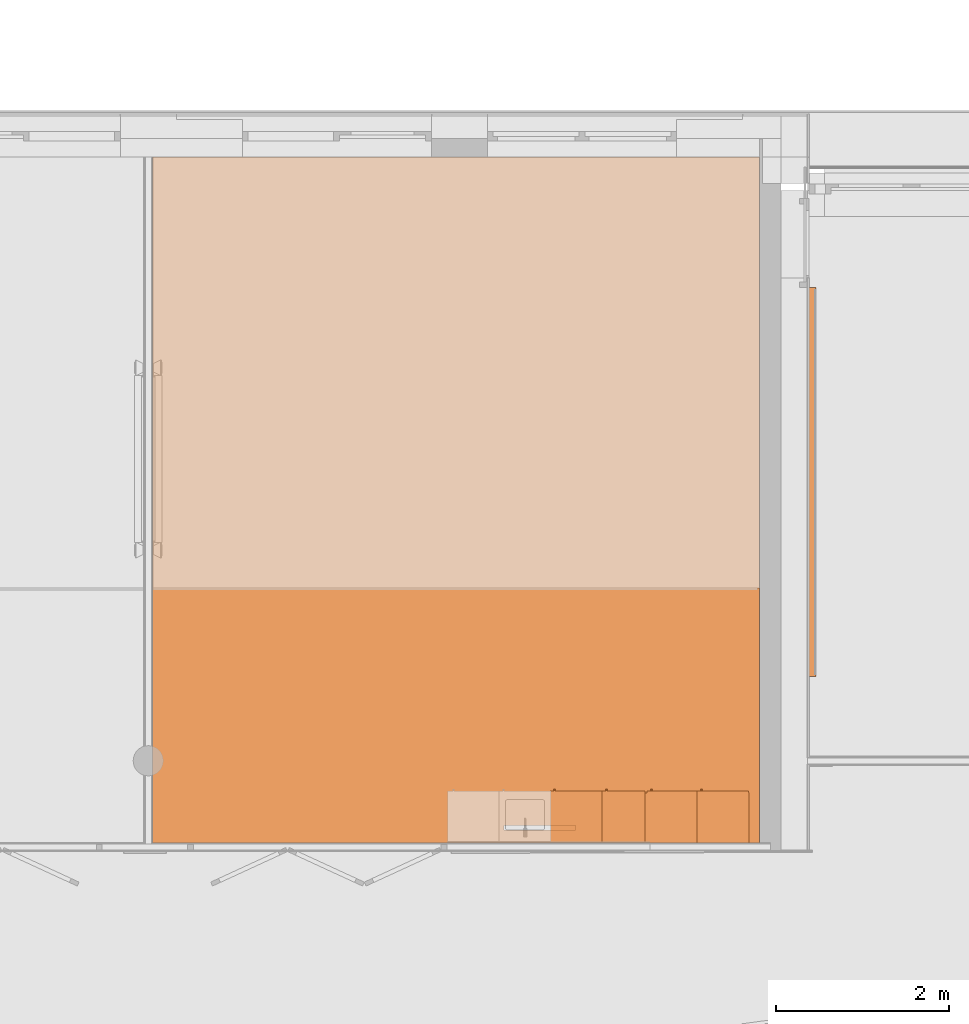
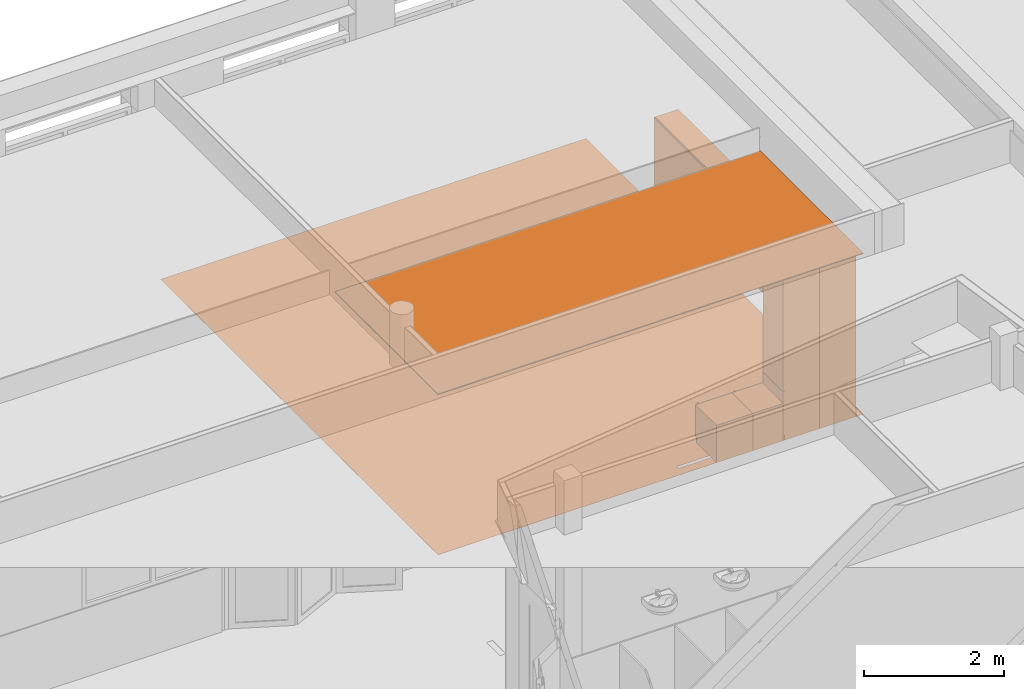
# One storey, part 134 of 167: 7 proxies.
"""IFC2X3 building model written with IfcOpenShell, lengths in millimetres."""

import ifcopenshell
import ifcopenshell.guid

model = None  # the IFC model being written
_history = None  # IfcOwnerHistory: only IFC2X3 demands one
_inside = {}  # id of a spatial element -> (the spatial element, [elements in it])
_under = {}  # id of a project, library or spatial element -> (it, [spatial elements below it])
_declared = {}  # id of a project -> (the project, [libraries it declares])
_typed = {}  # id of a type object -> (the type object, [elements of that type])
_made_of = {}  # id of a material, layer set ... -> (it, [elements and type objects made of it])


def new_model(schema):
    """Start an empty IFC model of exactly this schema.

    Asked for "IFC4X3", IfcOpenShell would pick the latest addendum, in which some entities
    have other attributes; the version numbers below select the first issue.
    IFC2X3 requires an IfcOwnerHistory on every rooted entity: one is made here for all.
    """
    global model, _history
    if schema == "IFC4X3":
        model = ifcopenshell.file(schema_version=(4, 3, 0, 0))
    else:
        model = ifcopenshell.file(schema=schema)
    _inside.clear()
    _under.clear()
    _declared.clear()
    _typed.clear()
    _made_of.clear()
    _history = None
    if model.schema == "IFC2X3":
        org = make("IfcOrganization", Name="unknown")
        user = make(
            "IfcPersonAndOrganization",
            ThePerson=make("IfcPerson", FamilyName="unknown"),
            TheOrganization=org,
        )
        app = make(
            "IfcApplication",
            ApplicationDeveloper=org,
            Version="unknown",
            ApplicationFullName="unknown",
            ApplicationIdentifier="unknown",
        )
        _history = make(
            "IfcOwnerHistory",
            OwningUser=user,
            OwningApplication=app,
            ChangeAction="ADDED",
            CreationDate=0,
        )
    return model


def make(cls, **values):
    """One entity of the class cls with the attributes given. An attribute that is None is left unset."""
    return model.create_entity(
        cls, **{name: value for name, value in values.items() if value is not None}
    )


def entity(cls, *values):
    """Any entity or typed value of the class cls, its attributes in the order of the schema. None: left unset."""
    e = model.create_entity(cls)
    for i, value in enumerate(values):
        if value is not None:
            e[i] = value
    return e


def rooted(cls, **values):
    """An entity with a GlobalId (a new one), such as an element, a storey or a relation."""
    return make(cls, GlobalId=ifcopenshell.guid.new(), OwnerHistory=_history, **values)


def si_unit(unit_type, name, prefix=None):
    """IfcSIUnit, for example si_unit("LENGTHUNIT", "METRE", prefix="MILLI")."""
    return make("IfcSIUnit", UnitType=unit_type, Prefix=prefix, Name=name)


def converted_unit(unit_type, name, factor, base, dimensions=None, offset=None):
    """IfcConversionBasedUnit, such as the inch: factor (a typed value) times the base unit."""
    return make(
        "IfcConversionBasedUnit"
        if offset is None
        else "IfcConversionBasedUnitWithOffset",
        ConversionOffset=offset,
        Dimensions=None
        if dimensions is None
        else entity("IfcDimensionalExponents", *dimensions),
        UnitType=unit_type,
        Name=name,
        ConversionFactor=make(
            "IfcMeasureWithUnit", ValueComponent=factor, UnitComponent=base
        ),
    )


def derived_unit(unit_type, elements):
    """IfcDerivedUnit: a product of units, each with its exponent."""
    return make(
        "IfcDerivedUnit",
        Elements=[
            make("IfcDerivedUnitElement", Unit=unit, Exponent=power)
            for unit, power in elements
        ],
        UnitType=unit_type,
    )


def money_unit(currency):
    """IfcMonetaryUnit."""
    return make("IfcMonetaryUnit", Currency=currency)


def assignment(units):
    """IfcUnitAssignment: the units of a project."""
    return None if units is None else make("IfcUnitAssignment", Units=units)


def point(xyz):
    """IfcCartesianPoint."""
    return None if xyz is None else make("IfcCartesianPoint", Coordinates=xyz)


def direction(xyz):
    """IfcDirection."""
    return None if xyz is None else make("IfcDirection", DirectionRatios=xyz)


def frame(location, z_axis=None, x_axis=None):
    """IfcAxis2Placement3D, a coordinate frame: its origin and axes. An axis left out is left unset."""
    return make(
        "IfcAxis2Placement3D",
        Location=point(location),
        Axis=direction(z_axis),
        RefDirection=direction(x_axis),
    )


def origin_with_axes():
    """The frame at (0, 0, 0) with the z axis (0, 0, 1) and the x axis (1, 0, 0) written out."""
    return frame((0.0, 0.0, 0.0), z_axis=(0.0, 0.0, 1.0), x_axis=(1.0, 0.0, 0.0))


def place(relative_to, where):
    """IfcLocalPlacement: puts the frame where relative to a parent placement (None: the world)."""
    return make(
        "IfcLocalPlacement", PlacementRelTo=relative_to, RelativePlacement=where
    )


def context(
    kind, dimensions, precision=None, world=None, true_north=None, identifier=None
):
    """IfcGeometricRepresentationContext, for example the 3D "Model" context."""
    return make(
        "IfcGeometricRepresentationContext",
        ContextIdentifier=identifier,
        ContextType=kind,
        CoordinateSpaceDimension=dimensions,
        Precision=precision,
        WorldCoordinateSystem=world,
        TrueNorth=true_north,
    )


def subcontext(parent, identifier, kind, view, scale=None):
    """IfcGeometricRepresentationSubContext, for example "Body" below "Model"."""
    return make(
        "IfcGeometricRepresentationSubContext",
        ContextIdentifier=identifier,
        ContextType=kind,
        ParentContext=parent,
        TargetScale=scale,
        TargetView=view,
    )


def project(units=None, contexts=None):
    """IfcProject with its units and contexts."""
    return rooted(
        "IfcProject",
        Name="project",
        RepresentationContexts=contexts,
        UnitsInContext=assignment(units),
    )


def spatial(cls, under=None, at=None, **own):
    """A site, building, storey or space (cls), placed at a placement, below another one or the project."""
    s = rooted(cls, ObjectPlacement=at, **own)
    if under is not None:
        _under.setdefault(under.id(), (under, []))[1].append(s)
    return s


def faces_of(points, faces, orient=None, outer=None):
    """IfcFace entities. A face is a list of loops; a loop is a list of indices into points, from 0.

    orient and outer hold one flag for each loop. By default every Orientation is true, the
    first loop of a face is its IfcFaceOuterBound and the others are IfcFaceBound.
    """
    made = []
    for i, loops in enumerate(faces):
        bounds = []
        for j, loop in enumerate(loops):
            is_outer = j == 0 if outer is None else outer[i][j]
            bounds.append(
                make(
                    "IfcFaceOuterBound" if is_outer else "IfcFaceBound",
                    Bound=make("IfcPolyLoop", Polygon=[points[k] for k in loop]),
                    Orientation=True if orient is None else orient[i][j],
                )
            )
        made.append(make("IfcFace", Bounds=bounds))
    return made


def faceted_brep(points, faces, orient=None, outer=None, voids=None):
    """IfcFacetedBrep: a solid bounded by flat faces; with voids (closed shells), ...WithVoids."""
    shared = [point(p) for p in points]
    hull = make("IfcClosedShell", CfsFaces=faces_of(shared, faces, orient, outer))
    if voids is None:
        return make("IfcFacetedBrep", Outer=hull)
    return make(
        "IfcFacetedBrepWithVoids",
        Outer=hull,
        Voids=[
            make(cls, CfsFaces=faces_of(shared, fs, o, b)) for cls, fs, o, b in voids
        ],
    )


def shape(context_of_items, identifier, shape_type, items):
    """IfcShapeRepresentation: the items that make up one representation, for example the "Body"."""
    return make(
        "IfcShapeRepresentation",
        ContextOfItems=context_of_items,
        RepresentationIdentifier=identifier,
        RepresentationType=shape_type,
        Items=items,
    )


def material(Name=None, Category=None):
    """IfcMaterial."""
    return make("IfcMaterial", Name=Name, Category=Category)


def made_of(thing, what):
    """Note that an element or type object is made of a material, layer set ...; save() writes the relation."""
    if what is not None:
        _made_of.setdefault(what.id(), (what, []))[1].append(thing)
    return thing


def type_object(cls, material=None, **own):
    """A type object (cls), such as IfcWallType, which elements share."""
    return made_of(rooted(cls, **own), material)


def element(
    cls,
    number,
    at=None,
    inside=None,
    cuts=None,
    type_object=None,
    material=None,
    context=None,
    identifier="Body",
    shape_type=None,
    held_by="IfcProductDefinitionShape",
    body=None,
    shapes=None,
    **own,
):
    """One element of the class cls, such as IfcWall. Its Tag is "e" and its number.

    at: its placement. inside: the storey or other place that contains it. cuts: it is an
    opening in that element (IfcRelVoidsElement). A single representation is given by context,
    identifier, shape_type and body (its items); several are given by shapes. held_by: the class
    of the entity that holds the representations. save() writes the other relations.
    """
    e = rooted(cls, Tag="e%d" % number, ObjectPlacement=at, **own)
    if body is not None:
        shapes = [shape(context, identifier, shape_type, body)]
    if shapes is not None:
        e.Representation = make(held_by, Representations=shapes)
    if inside is not None:
        _inside.setdefault(inside.id(), (inside, []))[1].append(e)
    if cuts is not None:
        rooted(
            "IfcRelVoidsElement", RelatingBuildingElement=cuts, RelatedOpeningElement=e
        )
    if type_object is not None:
        _typed.setdefault(type_object.id(), (type_object, []))[1].append(e)
    return made_of(e, material)


def aggregate(whole, parts):
    """IfcRelAggregates: a whole, such as a stair, and the parts it consists of."""
    return rooted("IfcRelAggregates", RelatingObject=whole, RelatedObjects=parts)


def save(model, path):
    """Write the relations noted so far, then the file.

    IfcRelAggregates (storeys below a building ...), IfcRelContainedInSpatialStructure (elements
    in a storey), IfcRelDefinesByType, IfcRelAssociatesMaterial and IfcRelDeclares: one each for
    every whole, place, type object, material and project.
    """
    for whole, parts in _under.values():
        aggregate(whole, parts)
    for where, things in _inside.values():
        rooted(
            "IfcRelContainedInSpatialStructure",
            RelatedElements=things,
            RelatingStructure=where,
        )
    for kind, things in _typed.values():
        rooted("IfcRelDefinesByType", RelatedObjects=things, RelatingType=kind)
    for what, things in _made_of.values():
        rooted("IfcRelAssociatesMaterial", RelatedObjects=things, RelatingMaterial=what)
    for by, libraries in _declared.values():
        rooted("IfcRelDeclares", RelatingContext=by, RelatedDefinitions=libraries)
    model.write(path)


model = new_model("IFC2X3")

# Units and contexts
model_context = context("Model", 3, precision=0.01, world=origin_with_axes(), true_north=direction((0.0, 1.0)))
plan_context = context("Plan", 3, precision=0.01, world=origin_with_axes(), true_north=direction((0.0, 1.0)))
body_context = subcontext(model_context, "Body", "Model", "MODEL_VIEW")
ifc_project = project(units=[si_unit("LENGTHUNIT", "METRE", prefix="MILLI"), si_unit("AREAUNIT", "SQUARE_METRE"), si_unit("VOLUMEUNIT", "CUBIC_METRE"), converted_unit("PLANEANGLEUNIT", "DEGREE", entity("IfcPlaneAngleMeasure", 0.0174532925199), si_unit("PLANEANGLEUNIT", "RADIAN"), dimensions=[0, 0, 0, 0, 0, 0, 0]), si_unit("SOLIDANGLEUNIT", "STERADIAN"), money_unit("EUR"), converted_unit("TIMEUNIT", "Year", entity("IfcTimeMeasure", 31556926.0), si_unit("TIMEUNIT", "SECOND"), dimensions=[0, 0, 1, 0, 0, 0, 0]), si_unit("MASSUNIT", "GRAM", prefix="KILO"), si_unit("THERMODYNAMICTEMPERATUREUNIT", "DEGREE_CELSIUS"), si_unit("LUMINOUSINTENSITYUNIT", "LUMEN"), si_unit("ENERGYUNIT", "JOULE", prefix="MEGA"), derived_unit("THERMALCONDUCTANCEUNIT", [(si_unit("POWERUNIT", "WATT"), 1), (si_unit("LENGTHUNIT", "METRE"), -1), (si_unit("THERMODYNAMICTEMPERATUREUNIT", "KELVIN"), -1)]), derived_unit("SPECIFICHEATCAPACITYUNIT", [(si_unit("ENERGYUNIT", "JOULE"), 1), (si_unit("MASSUNIT", "GRAM", prefix="KILO"), -1), (si_unit("THERMODYNAMICTEMPERATUREUNIT", "KELVIN"), -1)]), derived_unit("MASSDENSITYUNIT", [(si_unit("MASSUNIT", "GRAM", prefix="KILO"), 1), (si_unit("VOLUMEUNIT", "CUBIC_METRE"), -1)])], contexts=[model_context, plan_context])

# Site, building, storey
site_placement = place(None, origin_with_axes())
site = spatial("IfcSite", under=ifc_project, at=site_placement, Name="Site", CompositionType="ELEMENT")
building_placement = place(site_placement, origin_with_axes())
building = spatial("IfcBuilding", under=site, at=building_placement, Name="Naam gebouw", CompositionType="ELEMENT")
storey_placement = place(building_placement, origin_with_axes())
storey = spatial("IfcBuildingStorey", under=building, at=storey_placement, Name="Begane grond", CompositionType="ELEMENT", Elevation=0.0)

# Proxies
building_element_proxy_type_1 = type_object("IfcBuildingElementProxyType", Name="Kast basis 1D 24", PredefinedType="NOTDEFINED")
proxy_1_placement = place(storey_placement, frame((20150.0, 42850.0, 0.0), z_axis=(0.0, 0.0, 1.0), x_axis=(-1.0, 0.0, 0.0)))
element("IfcBuildingElementProxy", 1, at=proxy_1_placement, inside=storey, type_object=building_element_proxy_type_1, Name="__Object-x", context=body_context, shape_type="Brep", body=[
    faceted_brep([(0.0, 20.0, 0.0), (500.0, 20.0, 0.0), (500.0, 20.0, 90.0), (0.0, 20.0, 90.0), (0.0, 600.0, 0.0), (500.0, 600.0, 0.0), (500.0, 600.0, 90.0), (0.0, 600.0, 90.0)], [[[0, 1, 2, 3]], [[0, 4, 5, 1]], [[1, 5, 6, 2]], [[3, 2, 6, 7]], [[4, 0, 3, 7]], [[5, 4, 7, 6]]]),
    faceted_brep([(0.0, 20.0, 580.0), (20.0, 20.0, 580.0), (20.0, 20.0, 600.0), (0.0, 20.0, 600.0), (0.0, 600.0, 580.0), (20.0, 600.0, 580.0), (480.0, 600.0, 580.0), (500.0, 600.0, 580.0), (500.0, 20.0, 580.0), (480.0, 20.0, 580.0), (480.0, 20.0, 600.0), (500.0, 20.0, 600.0), (500.0, 600.0, 600.0), (480.0, 600.0, 600.0), (20.0, 600.0, 600.0), (0.0, 600.0, 600.0)], [[[0, 1, 2, 3]], [[0, 4, 5, 6, 7, 8, 9, 1]], [[1, 9, 10, 2]], [[3, 2, 10, 11, 12, 13, 14, 15]], [[4, 0, 3, 15]], [[5, 4, 15, 14]], [[6, 5, 14, 13]], [[7, 6, 13, 12]], [[8, 7, 12, 11]], [[9, 8, 11, 10]]]),
    faceted_brep([(0.0, 20.0, 90.0), (20.0, 20.0, 90.0), (20.0, 20.0, 110.0), (0.0, 20.0, 110.0), (0.0, 600.0, 90.0), (20.0, 600.0, 90.0), (480.0, 600.0, 90.0), (500.0, 600.0, 90.0), (500.0, 20.0, 90.0), (480.0, 20.0, 90.0), (480.0, 20.0, 110.0), (500.0, 20.0, 110.0), (500.0, 600.0, 110.0), (480.0, 600.0, 110.0), (20.0, 600.0, 110.0), (0.0, 600.0, 110.0)], [[[0, 1, 2, 3]], [[0, 4, 5, 6, 7, 8, 9, 1]], [[1, 9, 10, 2]], [[3, 2, 10, 11, 12, 13, 14, 15]], [[4, 0, 3, 15]], [[5, 4, 15, 14]], [[6, 5, 14, 13]], [[7, 6, 13, 12]], [[8, 7, 12, 11]], [[9, 8, 11, 10]]]),
    faceted_brep([(0.0, 20.0, 110.0), (20.0, 20.0, 110.0), (20.0, 20.0, 580.0), (0.0, 20.0, 580.0), (0.0, 600.0, 110.0), (500.0, 600.0, 110.0), (500.0, 20.0, 110.0), (480.0, 20.0, 110.0), (480.0, 580.0, 110.0), (20.0, 580.0, 110.0), (20.0, 580.0, 580.0), (480.0, 580.0, 580.0), (480.0, 20.0, 580.0), (500.0, 20.0, 580.0), (500.0, 600.0, 580.0), (0.0, 600.0, 580.0)], [[[0, 1, 2, 3]], [[0, 4, 5, 6, 7, 8, 9, 1]], [[1, 9, 10, 2]], [[3, 2, 10, 11, 12, 13, 14, 15]], [[4, 0, 3, 15]], [[5, 4, 15, 14]], [[6, 5, 14, 13]], [[7, 6, 13, 12]], [[8, 7, 12, 11]], [[9, 8, 11, 10]]]),
    faceted_brep([(480.0, 20.0, 325.0), (480.0, 580.0, 325.0), (480.0, 580.0, 345.0), (480.0, 20.0, 345.0), (20.0, 20.0, 325.0), (20.0, 580.0, 325.0), (20.0, 580.0, 345.0), (20.0, 20.0, 345.0)], [[[0, 1, 2, 3]], [[0, 4, 5, 1]], [[1, 5, 6, 2]], [[3, 2, 6, 7]], [[4, 0, 3, 7]], [[5, 4, 7, 6]]]),
    faceted_brep([(0.0, 0.0, 600.0), (500.0, 0.0, 600.0), (500.0, 0.0, 650.0), (0.0, 0.0, 650.0), (0.0, 600.0, 600.0), (500.0, 600.0, 600.0), (500.0, 600.0, 650.0), (0.0, 600.0, 650.0)], [[[0, 1, 2, 3]], [[0, 4, 5, 1]], [[1, 5, 6, 2]], [[3, 2, 6, 7]], [[4, 0, 3, 7]], [[5, 4, 7, 6]]]),
    faceted_brep([(1.5, 20.0, 91.5), (498.5, 20.0, 91.5), (498.5, 0.0, 91.5), (1.5, 0.0, 91.5), (1.5, 20.0, 598.5), (498.5, 20.0, 598.5), (498.5, 0.0, 598.5), (1.5, 0.0, 598.5)], [[[0, 1, 2, 3]], [[0, 4, 5, 1]], [[1, 5, 6, 2]], [[3, 2, 6, 7]], [[4, 0, 3, 7]], [[5, 4, 7, 6]]]),
    faceted_brep([(459.58655439, 0.0, 636.907798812), (456.985281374, 0.0, 633.014718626), (453.092201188, 0.0, 630.41344561), (448.5, 0.0, 629.5), (443.907798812, 0.0, 630.41344561), (440.014718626, 0.0, 633.014718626), (437.41344561, 0.0, 636.907798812), (436.5, 0.0, 641.5), (437.41344561, 0.0, 646.092201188), (440.014718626, 0.0, 649.985281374), (443.907798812, 0.0, 652.58655439), (448.5, 0.0, 653.5), (453.092201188, 0.0, 652.58655439), (456.985281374, 0.0, 649.985281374), (459.58655439, 0.0, 646.092201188), (460.5, 0.0, 641.5), (459.58655439, -25.0, 636.907798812), (456.985281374, -25.0, 633.014718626), (453.092201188, -25.0, 630.41344561), (448.5, -25.0, 629.5), (443.907798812, -25.0, 630.41344561), (440.014718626, -25.0, 633.014718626), (437.41344561, -25.0, 636.907798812), (436.5, -25.0, 641.5), (437.41344561, -25.0, 646.092201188), (440.014718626, -25.0, 649.985281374), (443.907798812, -25.0, 652.58655439), (448.5, -25.0, 653.5), (453.092201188, -25.0, 652.58655439), (456.985281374, -25.0, 649.985281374), (459.58655439, -25.0, 646.092201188), (460.5, -25.0, 641.5)], [[[0, 1, 2, 3, 4, 5, 6, 7, 8, 9, 10, 11, 12, 13, 14, 15]], [[1, 0, 16, 17]], [[2, 1, 17, 18]], [[3, 2, 18, 19]], [[4, 3, 19, 20]], [[5, 4, 20, 21]], [[6, 5, 21, 22]], [[7, 6, 22, 23]], [[8, 7, 23, 24]], [[9, 8, 24, 25]], [[10, 9, 25, 26]], [[11, 10, 26, 27]], [[12, 11, 27, 28]], [[13, 12, 28, 29]], [[14, 13, 29, 30]], [[15, 14, 30, 31]], [[0, 15, 31, 16]], [[16, 31, 30, 29, 28, 27, 26, 25, 24, 23, 22, 21, 20, 19, 18, 17]]]),
])
proxy_2_placement = place(storey_placement, frame((19650.0, 42850.0, 0.0), z_axis=(0.0, 0.0, 1.0), x_axis=(-1.0, 0.0, 0.0)))
element("IfcBuildingElementProxy", 2, at=proxy_2_placement, inside=storey, type_object=building_element_proxy_type_1, Name="__Object-x", context=body_context, shape_type="Brep", body=[
    faceted_brep([(0.0, 20.0, 0.0), (600.0, 20.0, 0.0), (600.0, 20.0, 90.0), (0.0, 20.0, 90.0), (0.0, 600.0, 0.0), (600.0, 600.0, 0.0), (600.0, 600.0, 90.0), (0.0, 600.0, 90.0)], [[[0, 1, 2, 3]], [[0, 4, 5, 1]], [[1, 5, 6, 2]], [[3, 2, 6, 7]], [[4, 0, 3, 7]], [[5, 4, 7, 6]]]),
    faceted_brep([(0.0, 20.0, 580.0), (20.0, 20.0, 580.0), (20.0, 20.0, 600.0), (0.0, 20.0, 600.0), (0.0, 600.0, 580.0), (20.0, 600.0, 580.0), (580.0, 600.0, 580.0), (600.0, 600.0, 580.0), (600.0, 20.0, 580.0), (580.0, 20.0, 580.0), (580.0, 20.0, 600.0), (600.0, 20.0, 600.0), (600.0, 600.0, 600.0), (580.0, 600.0, 600.0), (20.0, 600.0, 600.0), (0.0, 600.0, 600.0)], [[[0, 1, 2, 3]], [[0, 4, 5, 6, 7, 8, 9, 1]], [[1, 9, 10, 2]], [[3, 2, 10, 11, 12, 13, 14, 15]], [[4, 0, 3, 15]], [[5, 4, 15, 14]], [[6, 5, 14, 13]], [[7, 6, 13, 12]], [[8, 7, 12, 11]], [[9, 8, 11, 10]]]),
    faceted_brep([(0.0, 20.0, 90.0), (20.0, 20.0, 90.0), (20.0, 20.0, 110.0), (0.0, 20.0, 110.0), (0.0, 600.0, 90.0), (20.0, 600.0, 90.0), (580.0, 600.0, 90.0), (600.0, 600.0, 90.0), (600.0, 20.0, 90.0), (580.0, 20.0, 90.0), (580.0, 20.0, 110.0), (600.0, 20.0, 110.0), (600.0, 600.0, 110.0), (580.0, 600.0, 110.0), (20.0, 600.0, 110.0), (0.0, 600.0, 110.0)], [[[0, 1, 2, 3]], [[0, 4, 5, 6, 7, 8, 9, 1]], [[1, 9, 10, 2]], [[3, 2, 10, 11, 12, 13, 14, 15]], [[4, 0, 3, 15]], [[5, 4, 15, 14]], [[6, 5, 14, 13]], [[7, 6, 13, 12]], [[8, 7, 12, 11]], [[9, 8, 11, 10]]]),
    faceted_brep([(0.0, 20.0, 110.0), (20.0, 20.0, 110.0), (20.0, 20.0, 580.0), (0.0, 20.0, 580.0), (0.0, 600.0, 110.0), (600.0, 600.0, 110.0), (600.0, 20.0, 110.0), (580.0, 20.0, 110.0), (580.0, 580.0, 110.0), (20.0, 580.0, 110.0), (20.0, 580.0, 580.0), (580.0, 580.0, 580.0), (580.0, 20.0, 580.0), (600.0, 20.0, 580.0), (600.0, 600.0, 580.0), (0.0, 600.0, 580.0)], [[[0, 1, 2, 3]], [[0, 4, 5, 6, 7, 8, 9, 1]], [[1, 9, 10, 2]], [[3, 2, 10, 11, 12, 13, 14, 15]], [[4, 0, 3, 15]], [[5, 4, 15, 14]], [[6, 5, 14, 13]], [[7, 6, 13, 12]], [[8, 7, 12, 11]], [[9, 8, 11, 10]]]),
    faceted_brep([(580.0, 20.0, 325.0), (580.0, 580.0, 325.0), (580.0, 580.0, 345.0), (580.0, 20.0, 345.0), (20.0, 20.0, 325.0), (20.0, 580.0, 325.0), (20.0, 580.0, 345.0), (20.0, 20.0, 345.0)], [[[0, 1, 2, 3]], [[0, 4, 5, 1]], [[1, 5, 6, 2]], [[3, 2, 6, 7]], [[4, 0, 3, 7]], [[5, 4, 7, 6]]]),
    faceted_brep([(0.0, 0.0, 600.0), (600.0, 0.0, 600.0), (600.0, 0.0, 650.0), (0.0, 0.0, 650.0), (0.0, 600.0, 600.0), (600.0, 600.0, 600.0), (600.0, 600.0, 650.0), (0.0, 600.0, 650.0)], [[[0, 1, 2, 3]], [[0, 4, 5, 1]], [[1, 5, 6, 2]], [[3, 2, 6, 7]], [[4, 0, 3, 7]], [[5, 4, 7, 6]]]),
    faceted_brep([(1.5, 20.0, 91.5), (598.5, 20.0, 91.5), (598.5, 0.0, 91.5), (1.5, 0.0, 91.5), (1.5, 20.0, 598.5), (598.5, 20.0, 598.5), (598.5, 0.0, 598.5), (1.5, 0.0, 598.5)], [[[0, 1, 2, 3]], [[0, 4, 5, 1]], [[1, 5, 6, 2]], [[3, 2, 6, 7]], [[4, 0, 3, 7]], [[5, 4, 7, 6]]]),
    faceted_brep([(559.58655439, 0.0, 636.907798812), (556.985281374, 0.0, 633.014718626), (553.092201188, 0.0, 630.41344561), (548.5, 0.0, 629.5), (543.907798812, 0.0, 630.41344561), (540.014718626, 0.0, 633.014718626), (537.41344561, 0.0, 636.907798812), (536.5, 0.0, 641.5), (537.41344561, 0.0, 646.092201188), (540.014718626, 0.0, 649.985281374), (543.907798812, 0.0, 652.58655439), (548.5, 0.0, 653.5), (553.092201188, 0.0, 652.58655439), (556.985281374, 0.0, 649.985281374), (559.58655439, 0.0, 646.092201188), (560.5, 0.0, 641.5), (559.58655439, -25.0, 636.907798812), (556.985281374, -25.0, 633.014718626), (553.092201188, -25.0, 630.41344561), (548.5, -25.0, 629.5), (543.907798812, -25.0, 630.41344561), (540.014718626, -25.0, 633.014718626), (537.41344561, -25.0, 636.907798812), (536.5, -25.0, 641.5), (537.41344561, -25.0, 646.092201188), (540.014718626, -25.0, 649.985281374), (543.907798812, -25.0, 652.58655439), (548.5, -25.0, 653.5), (553.092201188, -25.0, 652.58655439), (556.985281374, -25.0, 649.985281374), (559.58655439, -25.0, 646.092201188), (560.5, -25.0, 641.5)], [[[0, 1, 2, 3, 4, 5, 6, 7, 8, 9, 10, 11, 12, 13, 14, 15]], [[1, 0, 16, 17]], [[2, 1, 17, 18]], [[3, 2, 18, 19]], [[4, 3, 19, 20]], [[5, 4, 20, 21]], [[6, 5, 21, 22]], [[7, 6, 22, 23]], [[8, 7, 23, 24]], [[9, 8, 24, 25]], [[10, 9, 25, 26]], [[11, 10, 26, 27]], [[12, 11, 27, 28]], [[13, 12, 28, 29]], [[14, 13, 29, 30]], [[15, 14, 30, 31]], [[0, 15, 31, 16]], [[16, 31, 30, 29, 28, 27, 26, 25, 24, 23, 22, 21, 20, 19, 18, 17]]]),
])
ifc_material_1 = material(Name="ALG - BINNENAFWERKING")
building_element_proxy_type_2 = type_object("IfcBuildingElementProxyType", Name="ALG - BINNENAFWERKING 10", PredefinedType="NOTDEFINED")
proxy_3_placement = place(storey_placement, frame((14450.0, 42250.0, 2800.0), z_axis=(0.0, 0.0, 1.0), x_axis=(1.0, 0.0, 0.0)))
element("IfcBuildingElementProxy", 3, at=proxy_3_placement, inside=storey, type_object=building_element_proxy_type_2, material=ifc_material_1, Name="23__Vloer-x", context=body_context, shape_type="Brep", body=[
    faceted_brep([(0.0, 0.0, 10.0), (0.0, 0.0, 0.0), (7025.0, -2.98427949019e-10, 0.0), (7025.0, -2.98427949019e-10, 10.0), (0.0, 2950.0, 10.0), (0.0, 2950.0, 0.0), (7025.0, 2950.0, 0.0), (7025.0, 2950.0, 10.0)], [[[0, 1, 2, 3]], [[4, 5, 1, 0]], [[2, 1, 5, 6]], [[3, 2, 6, 7]], [[4, 0, 3, 7]], [[7, 6, 5, 4]]]),
])
building_element_proxy_type_3 = type_object("IfcBuildingElementProxyType", Name="Kast hoog 1D 24", PredefinedType="NOTDEFINED")
proxy_4_placement = place(storey_placement, frame((21350.0, 42850.0, 0.0), z_axis=(0.0, 0.0, 1.0), x_axis=(-1.0, 0.0, 0.0)))
element("IfcBuildingElementProxy", 4, at=proxy_4_placement, inside=storey, type_object=building_element_proxy_type_3, Name="__Object-x", context=body_context, shape_type="Brep", body=[
    faceted_brep([(20.0, 20.0, 838.5), (580.0, 20.0, 838.5), (580.0, 20.0, 858.5), (20.0, 20.0, 858.5), (20.0, 580.0, 838.5), (580.0, 580.0, 838.5), (580.0, 580.0, 858.5), (20.0, 580.0, 858.5)], [[[0, 1, 2, 3]], [[0, 4, 5, 1]], [[1, 5, 6, 2]], [[3, 2, 6, 7]], [[4, 0, 3, 7]], [[5, 4, 7, 6]]]),
    faceted_brep([(0.0, 20.0, 0.0), (600.0, 20.0, 0.0), (600.0, 20.0, 90.0), (0.0, 20.0, 90.0), (0.0, 600.0, 0.0), (600.0, 600.0, 0.0), (600.0, 600.0, 90.0), (0.0, 600.0, 90.0)], [[[0, 1, 2, 3]], [[0, 4, 5, 1]], [[1, 5, 6, 2]], [[3, 2, 6, 7]], [[4, 0, 3, 7]], [[5, 4, 7, 6]]]),
    faceted_brep([(0.0, 20.0, 2780.0), (20.0, 20.0, 2780.0), (20.0, 20.0, 2800.0), (0.0, 20.0, 2800.0), (0.0, 600.0, 2780.0), (20.0, 600.0, 2780.0), (580.0, 600.0, 2780.0), (600.0, 600.0, 2780.0), (600.0, 20.0, 2780.0), (580.0, 20.0, 2780.0), (580.0, 20.0, 2800.0), (600.0, 20.0, 2800.0), (600.0, 600.0, 2800.0), (580.0, 600.0, 2800.0), (20.0, 600.0, 2800.0), (0.0, 600.0, 2800.0)], [[[0, 1, 2, 3]], [[0, 4, 5, 6, 7, 8, 9, 1]], [[1, 9, 10, 2]], [[3, 2, 10, 11, 12, 13, 14, 15]], [[4, 0, 3, 15]], [[5, 4, 15, 14]], [[6, 5, 14, 13]], [[7, 6, 13, 12]], [[8, 7, 12, 11]], [[9, 8, 11, 10]]]),
    faceted_brep([(0.0, 20.0, 90.0), (20.0, 20.0, 90.0), (20.0, 20.0, 110.0), (0.0, 20.0, 110.0), (0.0, 600.0, 90.0), (20.0, 600.0, 90.0), (580.0, 600.0, 90.0), (600.0, 600.0, 90.0), (600.0, 20.0, 90.0), (580.0, 20.0, 90.0), (580.0, 20.0, 110.0), (600.0, 20.0, 110.0), (600.0, 600.0, 110.0), (580.0, 600.0, 110.0), (20.0, 600.0, 110.0), (0.0, 600.0, 110.0)], [[[0, 1, 2, 3]], [[0, 4, 5, 6, 7, 8, 9, 1]], [[1, 9, 10, 2]], [[3, 2, 10, 11, 12, 13, 14, 15]], [[4, 0, 3, 15]], [[5, 4, 15, 14]], [[6, 5, 14, 13]], [[7, 6, 13, 12]], [[8, 7, 12, 11]], [[9, 8, 11, 10]]]),
    faceted_brep([(0.0, 20.0, 110.0), (20.0, 20.0, 110.0), (20.0, 20.0, 2780.0), (0.0, 20.0, 2780.0), (0.0, 600.0, 110.0), (600.0, 600.0, 110.0), (600.0, 20.0, 110.0), (580.0, 20.0, 110.0), (580.0, 580.0, 110.0), (20.0, 580.0, 110.0), (20.0, 580.0, 2780.0), (580.0, 580.0, 2780.0), (580.0, 20.0, 2780.0), (600.0, 20.0, 2780.0), (600.0, 600.0, 2780.0), (0.0, 600.0, 2780.0)], [[[0, 1, 2, 3]], [[0, 4, 5, 6, 7, 8, 9, 1]], [[1, 9, 10, 2]], [[3, 2, 10, 11, 12, 13, 14, 15]], [[4, 0, 3, 15]], [[5, 4, 15, 14]], [[6, 5, 14, 13]], [[7, 6, 13, 12]], [[8, 7, 12, 11]], [[9, 8, 11, 10]]]),
    faceted_brep([(580.0, 20.0, 329.5), (580.0, 580.0, 329.5), (580.0, 580.0, 349.5), (580.0, 20.0, 349.5), (20.0, 20.0, 329.5), (20.0, 580.0, 329.5), (20.0, 580.0, 349.5), (20.0, 20.0, 349.5)], [[[0, 1, 2, 3]], [[0, 4, 5, 1]], [[1, 5, 6, 2]], [[3, 2, 6, 7]], [[4, 0, 3, 7]], [[5, 4, 7, 6]]]),
    faceted_brep([(580.0, 20.0, 589.0), (580.0, 580.0, 589.0), (580.0, 580.0, 609.0), (580.0, 20.0, 609.0), (20.0, 20.0, 589.0), (20.0, 580.0, 589.0), (20.0, 580.0, 609.0), (20.0, 20.0, 609.0)], [[[0, 1, 2, 3]], [[0, 4, 5, 1]], [[1, 5, 6, 2]], [[3, 2, 6, 7]], [[4, 0, 3, 7]], [[5, 4, 7, 6]]]),
    faceted_brep([(1.5, 20.0, 91.5), (598.5, 20.0, 91.5), (598.5, 0.0, 91.5), (1.5, 0.0, 91.5), (1.5, 20.0, 847.0), (598.5, 20.0, 847.0), (598.5, 0.0, 847.0), (1.5, 0.0, 847.0)], [[[0, 1, 2, 3]], [[0, 4, 5, 1]], [[1, 5, 6, 2]], [[3, 2, 6, 7]], [[4, 0, 3, 7]], [[5, 4, 7, 6]]]),
    faceted_brep([(560.091109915, 0.0, 838.394171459), (558.892304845, 0.0, 835.5), (556.985281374, 0.0, 833.014718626), (554.5, 0.0, 831.107695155), (551.605828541, 0.0, 829.908890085), (548.5, 0.0, 829.5), (545.394171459, 0.0, 829.908890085), (542.5, 0.0, 831.107695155), (540.014718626, 0.0, 833.014718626), (538.107695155, 0.0, 835.5), (536.908890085, 0.0, 838.394171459), (536.5, 0.0, 841.5), (536.908890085, 0.0, 844.605828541), (538.107695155, 0.0, 847.5), (540.014718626, 0.0, 849.985281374), (542.5, 0.0, 851.892304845), (545.394171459, 0.0, 853.091109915), (548.5, 0.0, 853.5), (551.605828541, 0.0, 853.091109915), (554.5, 0.0, 851.892304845), (556.985281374, 0.0, 849.985281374), (558.892304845, 0.0, 847.5), (560.091109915, 0.0, 844.605828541), (560.5, 0.0, 841.5), (560.091109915, -25.0, 838.394171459), (558.892304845, -25.0, 835.5), (556.985281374, -25.0, 833.014718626), (554.5, -25.0, 831.107695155), (551.605828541, -25.0, 829.908890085), (548.5, -25.0, 829.5), (545.394171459, -25.0, 829.908890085), (542.5, -25.0, 831.107695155), (540.014718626, -25.0, 833.014718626), (538.107695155, -25.0, 835.5), (536.908890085, -25.0, 838.394171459), (536.5, -25.0, 841.5), (536.908890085, -25.0, 844.605828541), (538.107695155, -25.0, 847.5), (540.014718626, -25.0, 849.985281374), (542.5, -25.0, 851.892304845), (545.394171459, -25.0, 853.091109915), (548.5, -25.0, 853.5), (551.605828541, -25.0, 853.091109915), (554.5, -25.0, 851.892304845), (556.985281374, -25.0, 849.985281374), (558.892304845, -25.0, 847.5), (560.091109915, -25.0, 844.605828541), (560.5, -25.0, 841.5)], [[[0, 1, 2, 3, 4, 5, 6, 7, 8, 9, 10, 11, 12, 13, 14, 15, 16, 17, 18, 19, 20, 21, 22, 23]], [[1, 0, 24, 25]], [[2, 1, 25, 26]], [[3, 2, 26, 27]], [[4, 3, 27, 28]], [[5, 4, 28, 29]], [[6, 5, 29, 30]], [[7, 6, 30, 31]], [[8, 7, 31, 32]], [[9, 8, 32, 33]], [[10, 9, 33, 34]], [[11, 10, 34, 35]], [[12, 11, 35, 36]], [[13, 12, 36, 37]], [[14, 13, 37, 38]], [[15, 14, 38, 39]], [[16, 15, 39, 40]], [[17, 16, 40, 41]], [[18, 17, 41, 42]], [[19, 18, 42, 43]], [[20, 19, 43, 44]], [[21, 20, 44, 45]], [[22, 21, 45, 46]], [[23, 22, 46, 47]], [[0, 23, 47, 24]], [[24, 47, 46, 45, 44, 43, 42, 41, 40, 39, 38, 37, 36, 35, 34, 33, 32, 31, 30, 29, 28, 27, 26, 25]]]),
    faceted_brep([(1.5, 20.0, 850.0), (598.5, 20.0, 850.0), (598.5, 0.0, 850.0), (1.5, 0.0, 850.0), (1.5, 20.0, 2798.5), (598.5, 20.0, 2798.5), (598.5, 0.0, 2798.5), (1.5, 0.0, 2798.5)], [[[0, 1, 2, 3]], [[0, 4, 5, 1]], [[1, 5, 6, 2]], [[3, 2, 6, 7]], [[4, 0, 3, 7]], [[5, 4, 7, 6]]]),
    faceted_brep([(560.091109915, 0.0, 896.894171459), (558.892304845, 0.0, 894.0), (556.985281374, 0.0, 891.514718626), (554.5, 0.0, 889.607695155), (551.605828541, 0.0, 888.408890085), (548.5, 0.0, 888.0), (545.394171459, 0.0, 888.408890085), (542.5, 0.0, 889.607695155), (540.014718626, 0.0, 891.514718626), (538.107695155, 0.0, 894.0), (536.908890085, 0.0, 896.894171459), (536.5, 0.0, 900.0), (536.908890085, 0.0, 903.105828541), (538.107695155, 0.0, 906.0), (540.014718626, 0.0, 908.485281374), (542.5, 0.0, 910.392304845), (545.394171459, 0.0, 911.591109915), (548.5, 0.0, 912.0), (551.605828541, 0.0, 911.591109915), (554.5, 0.0, 910.392304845), (556.985281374, 0.0, 908.485281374), (558.892304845, 0.0, 906.0), (560.091109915, 0.0, 903.105828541), (560.5, 0.0, 900.0), (560.091109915, -25.0, 896.894171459), (558.892304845, -25.0, 894.0), (556.985281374, -25.0, 891.514718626), (554.5, -25.0, 889.607695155), (551.605828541, -25.0, 888.408890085), (548.5, -25.0, 888.0), (545.394171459, -25.0, 888.408890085), (542.5, -25.0, 889.607695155), (540.014718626, -25.0, 891.514718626), (538.107695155, -25.0, 894.0), (536.908890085, -25.0, 896.894171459), (536.5, -25.0, 900.0), (536.908890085, -25.0, 903.105828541), (538.107695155, -25.0, 906.0), (540.014718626, -25.0, 908.485281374), (542.5, -25.0, 910.392304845), (545.394171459, -25.0, 911.591109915), (548.5, -25.0, 912.0), (551.605828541, -25.0, 911.591109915), (554.5, -25.0, 910.392304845), (556.985281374, -25.0, 908.485281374), (558.892304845, -25.0, 906.0), (560.091109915, -25.0, 903.105828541), (560.5, -25.0, 900.0)], [[[0, 1, 2, 3, 4, 5, 6, 7, 8, 9, 10, 11, 12, 13, 14, 15, 16, 17, 18, 19, 20, 21, 22, 23]], [[1, 0, 24, 25]], [[2, 1, 25, 26]], [[3, 2, 26, 27]], [[4, 3, 27, 28]], [[5, 4, 28, 29]], [[6, 5, 29, 30]], [[7, 6, 30, 31]], [[8, 7, 31, 32]], [[9, 8, 32, 33]], [[10, 9, 33, 34]], [[11, 10, 34, 35]], [[12, 11, 35, 36]], [[13, 12, 36, 37]], [[14, 13, 37, 38]], [[15, 14, 38, 39]], [[16, 15, 39, 40]], [[17, 16, 40, 41]], [[18, 17, 41, 42]], [[19, 18, 42, 43]], [[20, 19, 43, 44]], [[21, 20, 44, 45]], [[22, 21, 45, 46]], [[23, 22, 46, 47]], [[0, 23, 47, 24]], [[24, 47, 46, 45, 44, 43, 42, 41, 40, 39, 38, 37, 36, 35, 34, 33, 32, 31, 30, 29, 28, 27, 26, 25]]]),
])
proxy_5_placement = place(storey_placement, frame((20750.0, 42850.0, 0.0), z_axis=(0.0, 0.0, 1.0), x_axis=(-1.0, 0.0, 0.0)))
element("IfcBuildingElementProxy", 5, at=proxy_5_placement, inside=storey, type_object=building_element_proxy_type_3, Name="__Object-x", context=body_context, shape_type="Brep", body=[
    faceted_brep([(20.0, 20.0, 838.5), (560.0, 20.0, 838.5), (560.0, 20.0, 858.5), (20.0, 20.0, 858.5), (20.0, 580.0, 838.5), (560.0, 580.0, 838.5), (560.0, 580.0, 858.5), (20.0, 580.0, 858.5)], [[[0, 1, 2, 3]], [[0, 4, 5, 1]], [[1, 5, 6, 2]], [[3, 2, 6, 7]], [[4, 0, 3, 7]], [[5, 4, 7, 6]]]),
    faceted_brep([(0.0, 20.0, 0.0), (580.0, 20.0, 0.0), (580.0, 20.0, 90.0), (0.0, 20.0, 90.0), (0.0, 600.0, 0.0), (580.0, 600.0, 0.0), (580.0, 600.0, 90.0), (0.0, 600.0, 90.0)], [[[0, 1, 2, 3]], [[0, 4, 5, 1]], [[1, 5, 6, 2]], [[3, 2, 6, 7]], [[4, 0, 3, 7]], [[5, 4, 7, 6]]]),
    faceted_brep([(0.0, 20.0, 2780.0), (20.0, 20.0, 2780.0), (20.0, 20.0, 2800.0), (0.0, 20.0, 2800.0), (0.0, 600.0, 2780.0), (20.0, 600.0, 2780.0), (560.0, 600.0, 2780.0), (580.0, 600.0, 2780.0), (580.0, 20.0, 2780.0), (560.0, 20.0, 2780.0), (560.0, 20.0, 2800.0), (580.0, 20.0, 2800.0), (580.0, 600.0, 2800.0), (560.0, 600.0, 2800.0), (20.0, 600.0, 2800.0), (0.0, 600.0, 2800.0)], [[[0, 1, 2, 3]], [[0, 4, 5, 6, 7, 8, 9, 1]], [[1, 9, 10, 2]], [[3, 2, 10, 11, 12, 13, 14, 15]], [[4, 0, 3, 15]], [[5, 4, 15, 14]], [[6, 5, 14, 13]], [[7, 6, 13, 12]], [[8, 7, 12, 11]], [[9, 8, 11, 10]]]),
    faceted_brep([(0.0, 20.0, 90.0), (20.0, 20.0, 90.0), (20.0, 20.0, 110.0), (0.0, 20.0, 110.0), (0.0, 600.0, 90.0), (20.0, 600.0, 90.0), (560.0, 600.0, 90.0), (580.0, 600.0, 90.0), (580.0, 20.0, 90.0), (560.0, 20.0, 90.0), (560.0, 20.0, 110.0), (580.0, 20.0, 110.0), (580.0, 600.0, 110.0), (560.0, 600.0, 110.0), (20.0, 600.0, 110.0), (0.0, 600.0, 110.0)], [[[0, 1, 2, 3]], [[0, 4, 5, 6, 7, 8, 9, 1]], [[1, 9, 10, 2]], [[3, 2, 10, 11, 12, 13, 14, 15]], [[4, 0, 3, 15]], [[5, 4, 15, 14]], [[6, 5, 14, 13]], [[7, 6, 13, 12]], [[8, 7, 12, 11]], [[9, 8, 11, 10]]]),
    faceted_brep([(0.0, 20.0, 110.0), (20.0, 20.0, 110.0), (20.0, 20.0, 2780.0), (0.0, 20.0, 2780.0), (0.0, 600.0, 110.0), (580.0, 600.0, 110.0), (580.0, 20.0, 110.0), (560.0, 20.0, 110.0), (560.0, 580.0, 110.0), (20.0, 580.0, 110.0), (20.0, 580.0, 2780.0), (560.0, 580.0, 2780.0), (560.0, 20.0, 2780.0), (580.0, 20.0, 2780.0), (580.0, 600.0, 2780.0), (0.0, 600.0, 2780.0)], [[[0, 1, 2, 3]], [[0, 4, 5, 6, 7, 8, 9, 1]], [[1, 9, 10, 2]], [[3, 2, 10, 11, 12, 13, 14, 15]], [[4, 0, 3, 15]], [[5, 4, 15, 14]], [[6, 5, 14, 13]], [[7, 6, 13, 12]], [[8, 7, 12, 11]], [[9, 8, 11, 10]]]),
    faceted_brep([(560.0, 20.0, 329.5), (560.0, 580.0, 329.5), (560.0, 580.0, 349.5), (560.0, 20.0, 349.5), (20.0, 20.0, 329.5), (20.0, 580.0, 329.5), (20.0, 580.0, 349.5), (20.0, 20.0, 349.5)], [[[0, 1, 2, 3]], [[0, 4, 5, 1]], [[1, 5, 6, 2]], [[3, 2, 6, 7]], [[4, 0, 3, 7]], [[5, 4, 7, 6]]]),
    faceted_brep([(560.0, 20.0, 589.0), (560.0, 580.0, 589.0), (560.0, 580.0, 609.0), (560.0, 20.0, 609.0), (20.0, 20.0, 589.0), (20.0, 580.0, 589.0), (20.0, 580.0, 609.0), (20.0, 20.0, 609.0)], [[[0, 1, 2, 3]], [[0, 4, 5, 1]], [[1, 5, 6, 2]], [[3, 2, 6, 7]], [[4, 0, 3, 7]], [[5, 4, 7, 6]]]),
    faceted_brep([(1.5, 20.0, 91.5), (578.5, 20.0, 91.5), (578.5, 0.0, 91.5), (1.5, 0.0, 91.5), (1.5, 20.0, 847.0), (578.5, 20.0, 847.0), (578.5, 0.0, 847.0), (1.5, 0.0, 847.0)], [[[0, 1, 2, 3]], [[0, 4, 5, 1]], [[1, 5, 6, 2]], [[3, 2, 6, 7]], [[4, 0, 3, 7]], [[5, 4, 7, 6]]]),
    faceted_brep([(540.091109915, 0.0, 838.394171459), (538.892304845, 0.0, 835.5), (536.985281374, 0.0, 833.014718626), (534.5, 0.0, 831.107695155), (531.605828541, 0.0, 829.908890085), (528.5, 0.0, 829.5), (525.394171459, 0.0, 829.908890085), (522.5, 0.0, 831.107695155), (520.014718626, 0.0, 833.014718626), (518.107695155, 0.0, 835.5), (516.908890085, 0.0, 838.394171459), (516.5, 0.0, 841.5), (516.908890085, 0.0, 844.605828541), (518.107695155, 0.0, 847.5), (520.014718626, 0.0, 849.985281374), (522.5, 0.0, 851.892304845), (525.394171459, 0.0, 853.091109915), (528.5, 0.0, 853.5), (531.605828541, 0.0, 853.091109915), (534.5, 0.0, 851.892304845), (536.985281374, 0.0, 849.985281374), (538.892304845, 0.0, 847.5), (540.091109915, 0.0, 844.605828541), (540.5, 0.0, 841.5), (540.091109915, -25.0, 838.394171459), (538.892304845, -25.0, 835.5), (536.985281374, -25.0, 833.014718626), (534.5, -25.0, 831.107695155), (531.605828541, -25.0, 829.908890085), (528.5, -25.0, 829.5), (525.394171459, -25.0, 829.908890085), (522.5, -25.0, 831.107695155), (520.014718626, -25.0, 833.014718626), (518.107695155, -25.0, 835.5), (516.908890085, -25.0, 838.394171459), (516.5, -25.0, 841.5), (516.908890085, -25.0, 844.605828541), (518.107695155, -25.0, 847.5), (520.014718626, -25.0, 849.985281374), (522.5, -25.0, 851.892304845), (525.394171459, -25.0, 853.091109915), (528.5, -25.0, 853.5), (531.605828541, -25.0, 853.091109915), (534.5, -25.0, 851.892304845), (536.985281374, -25.0, 849.985281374), (538.892304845, -25.0, 847.5), (540.091109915, -25.0, 844.605828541), (540.5, -25.0, 841.5)], [[[0, 1, 2, 3, 4, 5, 6, 7, 8, 9, 10, 11, 12, 13, 14, 15, 16, 17, 18, 19, 20, 21, 22, 23]], [[1, 0, 24, 25]], [[2, 1, 25, 26]], [[3, 2, 26, 27]], [[4, 3, 27, 28]], [[5, 4, 28, 29]], [[6, 5, 29, 30]], [[7, 6, 30, 31]], [[8, 7, 31, 32]], [[9, 8, 32, 33]], [[10, 9, 33, 34]], [[11, 10, 34, 35]], [[12, 11, 35, 36]], [[13, 12, 36, 37]], [[14, 13, 37, 38]], [[15, 14, 38, 39]], [[16, 15, 39, 40]], [[17, 16, 40, 41]], [[18, 17, 41, 42]], [[19, 18, 42, 43]], [[20, 19, 43, 44]], [[21, 20, 44, 45]], [[22, 21, 45, 46]], [[23, 22, 46, 47]], [[0, 23, 47, 24]], [[24, 47, 46, 45, 44, 43, 42, 41, 40, 39, 38, 37, 36, 35, 34, 33, 32, 31, 30, 29, 28, 27, 26, 25]]]),
    faceted_brep([(1.5, 20.0, 850.0), (578.5, 20.0, 850.0), (578.5, 0.0, 850.0), (1.5, 0.0, 850.0), (1.5, 20.0, 2798.5), (578.5, 20.0, 2798.5), (578.5, 0.0, 2798.5), (1.5, 0.0, 2798.5)], [[[0, 1, 2, 3]], [[0, 4, 5, 1]], [[1, 5, 6, 2]], [[3, 2, 6, 7]], [[4, 0, 3, 7]], [[5, 4, 7, 6]]]),
    faceted_brep([(540.091109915, 0.0, 896.894171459), (538.892304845, 0.0, 894.0), (536.985281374, 0.0, 891.514718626), (534.5, 0.0, 889.607695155), (531.605828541, 0.0, 888.408890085), (528.5, 0.0, 888.0), (525.394171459, 0.0, 888.408890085), (522.5, 0.0, 889.607695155), (520.014718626, 0.0, 891.514718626), (518.107695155, 0.0, 894.0), (516.908890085, 0.0, 896.894171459), (516.5, 0.0, 900.0), (516.908890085, 0.0, 903.105828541), (518.107695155, 0.0, 906.0), (520.014718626, 0.0, 908.485281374), (522.5, 0.0, 910.392304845), (525.394171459, 0.0, 911.591109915), (528.5, 0.0, 912.0), (531.605828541, 0.0, 911.591109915), (534.5, 0.0, 910.392304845), (536.985281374, 0.0, 908.485281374), (538.892304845, 0.0, 906.0), (540.091109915, 0.0, 903.105828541), (540.5, 0.0, 900.0), (540.091109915, -25.0, 896.894171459), (538.892304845, -25.0, 894.0), (536.985281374, -25.0, 891.514718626), (534.5, -25.0, 889.607695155), (531.605828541, -25.0, 888.408890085), (528.5, -25.0, 888.0), (525.394171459, -25.0, 888.408890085), (522.5, -25.0, 889.607695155), (520.014718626, -25.0, 891.514718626), (518.107695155, -25.0, 894.0), (516.908890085, -25.0, 896.894171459), (516.5, -25.0, 900.0), (516.908890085, -25.0, 903.105828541), (518.107695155, -25.0, 906.0), (520.014718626, -25.0, 908.485281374), (522.5, -25.0, 910.392304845), (525.394171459, -25.0, 911.591109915), (528.5, -25.0, 912.0), (531.605828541, -25.0, 911.591109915), (534.5, -25.0, 910.392304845), (536.985281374, -25.0, 908.485281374), (538.892304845, -25.0, 906.0), (540.091109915, -25.0, 903.105828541), (540.5, -25.0, 900.0)], [[[0, 1, 2, 3, 4, 5, 6, 7, 8, 9, 10, 11, 12, 13, 14, 15, 16, 17, 18, 19, 20, 21, 22, 23]], [[1, 0, 24, 25]], [[2, 1, 25, 26]], [[3, 2, 26, 27]], [[4, 3, 27, 28]], [[5, 4, 28, 29]], [[6, 5, 29, 30]], [[7, 6, 30, 31]], [[8, 7, 31, 32]], [[9, 8, 32, 33]], [[10, 9, 33, 34]], [[11, 10, 34, 35]], [[12, 11, 35, 36]], [[13, 12, 36, 37]], [[14, 13, 37, 38]], [[15, 14, 38, 39]], [[16, 15, 39, 40]], [[17, 16, 40, 41]], [[18, 17, 41, 42]], [[19, 18, 42, 43]], [[20, 19, 43, 44]], [[21, 20, 44, 45]], [[22, 21, 45, 46]], [[23, 22, 46, 47]], [[0, 23, 47, 24]], [[24, 47, 46, 45, 44, 43, 42, 41, 40, 39, 38, 37, 36, 35, 34, 33, 32, 31, 30, 29, 28, 27, 26, 25]]]),
    faceted_brep([(580.0, 21.5, 91.5), (580.0, 598.5, 91.5), (600.0, 598.5, 91.5), (600.0, 21.5, 91.5), (580.0, 21.5, 847.0), (580.0, 598.5, 847.0), (600.0, 598.5, 847.0), (600.0, 21.5, 847.0)], [[[0, 1, 2, 3]], [[0, 4, 5, 1]], [[1, 5, 6, 2]], [[3, 2, 6, 7]], [[4, 0, 3, 7]], [[5, 4, 7, 6]]]),
    faceted_brep([(580.0, 21.5, 850.0), (580.0, 598.5, 850.0), (600.0, 598.5, 850.0), (600.0, 21.5, 850.0), (580.0, 21.5, 2798.5), (580.0, 598.5, 2798.5), (600.0, 598.5, 2798.5), (600.0, 21.5, 2798.5)], [[[0, 1, 2, 3]], [[0, 4, 5, 1]], [[1, 5, 6, 2]], [[3, 2, 6, 7]], [[4, 0, 3, 7]], [[5, 4, 7, 6]]]),
])
building_element_proxy_type_4 = type_object("IfcBuildingElementProxyType", Name="Boekenplank 01 24", PredefinedType="NOTDEFINED")
proxy_6_placement = place(storey_placement, frame((22125.0, 48676.0, 0.0), z_axis=(0.0, 0.0, 1.0), x_axis=(0.0, 1.0, 0.0)))
element("IfcBuildingElementProxy", 6, at=proxy_6_placement, inside=storey, type_object=building_element_proxy_type_4, Name="__Object-x", context=body_context, shape_type="Brep", body=[
    faceted_brep([(-4480.0, 400.0, 20.0), (-4480.0, 380.0, 20.0), (-4480.0, 380.0, 1180.0), (-4480.0, 400.0, 1180.0), (-20.0, 400.0, 20.0), (-20.0, 380.0, 20.0), (-20.0, 380.0, 1180.0), (-20.0, 400.0, 1180.0)], [[[0, 1, 2, 3]], [[0, 4, 5, 1]], [[1, 5, 6, 2]], [[3, 2, 6, 7]], [[4, 0, 3, 7]], [[5, 4, 7, 6]]]),
    faceted_brep([(-4480.0, 380.0, 0.0), (-4480.0, 0.0, 0.0), (-4480.0, 0.0, 30.0), (-4480.0, 380.0, 30.0), (-20.0, 380.0, 0.0), (-20.0, 0.0, 0.0), (-20.0, 0.0, 30.0), (-20.0, 380.0, 30.0)], [[[0, 1, 2, 3]], [[0, 4, 5, 1]], [[1, 5, 6, 2]], [[3, 2, 6, 7]], [[4, 0, 3, 7]], [[5, 4, 7, 6]]]),
    faceted_brep([(-4480.0, 380.0, 1170.0), (-4480.0, 0.0, 1170.0), (-4480.0, 0.0, 1200.0), (-4480.0, 380.0, 1200.0), (-20.0, 380.0, 1170.0), (-20.0, 0.0, 1170.0), (-20.0, 0.0, 1200.0), (-20.0, 380.0, 1200.0)], [[[0, 1, 2, 3]], [[0, 4, 5, 1]], [[1, 5, 6, 2]], [[3, 2, 6, 7]], [[4, 0, 3, 7]], [[5, 4, 7, 6]]]),
    faceted_brep([(-20.0, 0.0, 0.0), (0.0, 0.0, 0.0), (0.0, 0.0, 1200.0), (-20.0, 0.0, 1200.0), (-20.0, 400.0, 0.0), (0.0, 400.0, 0.0), (0.0, 400.0, 1200.0), (-20.0, 400.0, 1200.0)], [[[0, 1, 2, 3]], [[0, 4, 5, 1]], [[1, 5, 6, 2]], [[3, 2, 6, 7]], [[4, 0, 3, 7]], [[5, 4, 7, 6]]]),
    faceted_brep([(-4480.0, 400.0, 0.0), (-4500.0, 400.0, 0.0), (-4500.0, 400.0, 1200.0), (-4480.0, 400.0, 1200.0), (-4480.0, 0.0, 0.0), (-4500.0, 0.0, 0.0), (-4500.0, 0.0, 1200.0), (-4480.0, 0.0, 1200.0)], [[[0, 1, 2, 3]], [[0, 4, 5, 1]], [[1, 5, 6, 2]], [[3, 2, 6, 7]], [[4, 0, 3, 7]], [[5, 4, 7, 6]]]),
])
ifc_material_2 = material(Name="_TenW_43_Marmoleum Salsa Verde")
building_element_proxy_type_5 = type_object("IfcBuildingElementProxyType", Name="_TenW_43_Marmoleum Salsa Verde 2", PredefinedType="NOTDEFINED")
proxy_7_placement = place(storey_placement, frame((14450.0, 42250.0, 0.0), z_axis=(0.0, 0.0, 1.0), x_axis=(1.0, 0.0, 0.0)))
element("IfcBuildingElementProxy", 7, at=proxy_7_placement, inside=storey, type_object=building_element_proxy_type_5, material=ifc_material_2, Name="23__Vloer-x", context=body_context, shape_type="Brep", body=[
    faceted_brep([(7025.0, 7936.0, 0.0), (7025.0, 0.0, 0.0), (0.0, 0.0, 0.0), (0.0, 7936.0, 0.0), (4067.36785239, 200.038726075, 0.0), (4067.36785239, 150.038726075, 0.0), (4891.42761452, 150.038726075, 0.0), (4891.42761452, 200.038726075, 0.0), (7025.0, 7936.0, 2.0), (7025.0, 0.0, 2.0), (0.0, 0.0, 2.0), (0.0, 7936.0, 2.0), (4067.36785239, 200.038726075, 2.0), (4067.36785239, 150.038726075, 2.0), (4891.42761452, 150.038726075, 2.0), (4891.42761452, 200.038726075, 2.0)], [[[0, 1, 2, 3], [4, 5, 6, 7]], [[8, 9, 1, 0]], [[9, 10, 2, 1]], [[10, 11, 3, 2]], [[11, 8, 0, 3]], [[4, 12, 13, 5]], [[5, 13, 14, 6]], [[6, 14, 15, 7]], [[7, 15, 12, 4]], [[8, 11, 10, 9], [14, 13, 12, 15]]]),
])

save(model, "model.ifc")
